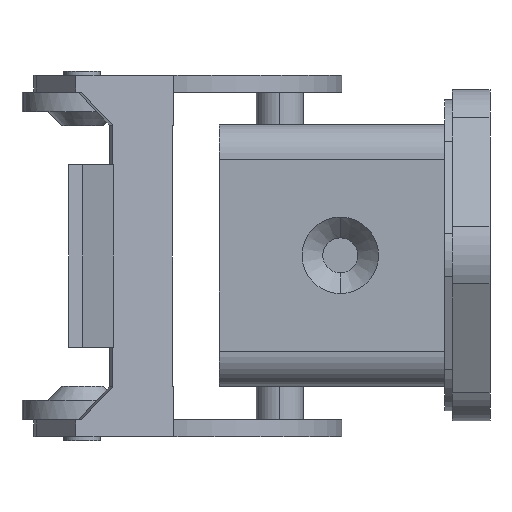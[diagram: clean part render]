
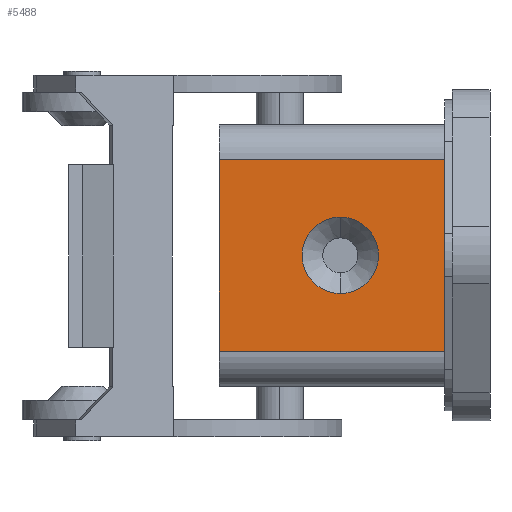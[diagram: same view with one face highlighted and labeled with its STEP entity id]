
A CAD part, left-side view. The second image highlights one B-rep face of the part: STEP entity #5488.
In plain terms, the highlighted planar face has unit normal (-1, 0, 0).
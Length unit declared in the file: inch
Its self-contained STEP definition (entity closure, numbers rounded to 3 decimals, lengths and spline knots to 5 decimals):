
#1799 = CARTESIAN_POINT ( 'NONE',  ( 1.99554, -2.30595, 0.44854 ) ) ;
#1800 = DIRECTION ( 'NONE',  ( 0., 0., -1. ) ) ;
#1801 = DIRECTION ( 'NONE',  ( 1., 0., 0. ) ) ;
#1802 = CARTESIAN_POINT ( 'NONE',  ( 1.99554, -2.30595, 0.31204 ) ) ;
#1803 = AXIS2_PLACEMENT_3D ( 'NONE', #1802, #1801, #1800 ) ;
#1804 = CIRCLE ( 'NONE', #1803, 0.1365 ) ;
#1805 = CARTESIAN_POINT ( 'NONE',  ( 1.99554, -2.30595, 0.17554 ) ) ;
#2700 = DIRECTION ( 'NONE',  ( 0., -1., 0. ) ) ;
#2701 = VECTOR ( 'NONE', #2700, 39.37008 ) ;
#2702 = CARTESIAN_POINT ( 'NONE',  ( 1.99554, -1.87345, 0.65454 ) ) ;
#2703 = LINE ( 'NONE', #2702, #2701 ) ;
#2705 = CARTESIAN_POINT ( 'NONE',  ( 1.99554, -1.87345, 0.65454 ) ) ;
#2716 = CARTESIAN_POINT ( 'NONE',  ( 1.99554, -2.67945, 0.65454 ) ) ;
#2952 = CARTESIAN_POINT ( 'NONE',  ( 1.99554, -1.87345, -0.03046 ) ) ;
#2953 = DIRECTION ( 'NONE',  ( 0., -1., 0. ) ) ;
#2954 = VECTOR ( 'NONE', #2953, 39.37008 ) ;
#2955 = CARTESIAN_POINT ( 'NONE',  ( 1.99554, -1.87345, -0.03046 ) ) ;
#2956 = LINE ( 'NONE', #2955, #2954 ) ;
#2957 = CARTESIAN_POINT ( 'NONE',  ( 1.99554, -2.67945, -0.03046 ) ) ;
#3655 = DIRECTION ( 'NONE',  ( 0., 0., 1. ) ) ;
#3656 = VECTOR ( 'NONE', #3655, 39.37008 ) ;
#3657 = CARTESIAN_POINT ( 'NONE',  ( 1.99554, -1.87345, -0.03046 ) ) ;
#3658 = LINE ( 'NONE', #3657, #3656 ) ;
#4208 = FACE_OUTER_BOUND ( 'NONE', #5477, .T. ) ;
#4209 = FACE_BOUND ( 'NONE', #5489, .T. ) ;
#4266 = DIRECTION ( 'NONE',  ( 0., 0., -1. ) ) ;
#4267 = DIRECTION ( 'NONE',  ( 1., 0., 0. ) ) ;
#4268 = CARTESIAN_POINT ( 'NONE',  ( 1.99554, -1.87345, -0.03046 ) ) ;
#4269 = AXIS2_PLACEMENT_3D ( 'NONE', #4268, #4267, #4266 ) ;
#4270 = PLANE ( 'NONE',  #4269 ) ;
#4345 = DIRECTION ( 'NONE',  ( 0., 0., -1. ) ) ;
#4346 = DIRECTION ( 'NONE',  ( 1., 0., 0. ) ) ;
#4347 = CARTESIAN_POINT ( 'NONE',  ( 1.99554, -2.30595, 0.31204 ) ) ;
#4348 = AXIS2_PLACEMENT_3D ( 'NONE', #4347, #4346, #4345 ) ;
#4349 = CIRCLE ( 'NONE', #4348, 0.1365 ) ;
#4351 = DIRECTION ( 'NONE',  ( 0., 0., -1. ) ) ;
#4352 = VECTOR ( 'NONE', #4351, 39.37008 ) ;
#4353 = CARTESIAN_POINT ( 'NONE',  ( 1.99554, -2.67945, -0.03046 ) ) ;
#4354 = LINE ( 'NONE', #4353, #4352 ) ;
#5458 = EDGE_CURVE ( 'NONE', #6475, #6633, #4354, .T. ) ;
#5476 = EDGE_CURVE ( 'NONE', #6241, #6244, #4349, .T. ) ;
#5477 = EDGE_LOOP ( 'NONE', ( #5478, #5479, #5480, #5481 ) ) ;
#5478 = ORIENTED_EDGE ( 'NONE', *, *, #5458, .F. ) ;
#5479 = ORIENTED_EDGE ( 'NONE', *, *, #6483, .F. ) ;
#5480 = ORIENTED_EDGE ( 'NONE', *, *, #6714, .F. ) ;
#5481 = ORIENTED_EDGE ( 'NONE', *, *, #6635, .T. ) ;
#5488 = ADVANCED_FACE ( 'NONE', ( #4209, #4208 ), #4270, .F. ) ;
#5489 = EDGE_LOOP ( 'NONE', ( #5490, #5491 ) ) ;
#5490 = ORIENTED_EDGE ( 'NONE', *, *, #6243, .T. ) ;
#5491 = ORIENTED_EDGE ( 'NONE', *, *, #5476, .T. ) ;
#6241 = VERTEX_POINT ( 'NONE', #1805 ) ;
#6243 = EDGE_CURVE ( 'NONE', #6244, #6241, #1804, .T. ) ;
#6244 = VERTEX_POINT ( 'NONE', #1799 ) ;
#6475 = VERTEX_POINT ( 'NONE', #2716 ) ;
#6481 = VERTEX_POINT ( 'NONE', #2705 ) ;
#6483 = EDGE_CURVE ( 'NONE', #6481, #6475, #2703, .T. ) ;
#6633 = VERTEX_POINT ( 'NONE', #2957 ) ;
#6635 = EDGE_CURVE ( 'NONE', #6636, #6633, #2956, .T. ) ;
#6636 = VERTEX_POINT ( 'NONE', #2952 ) ;
#6714 = EDGE_CURVE ( 'NONE', #6636, #6481, #3658, .T. ) ;
